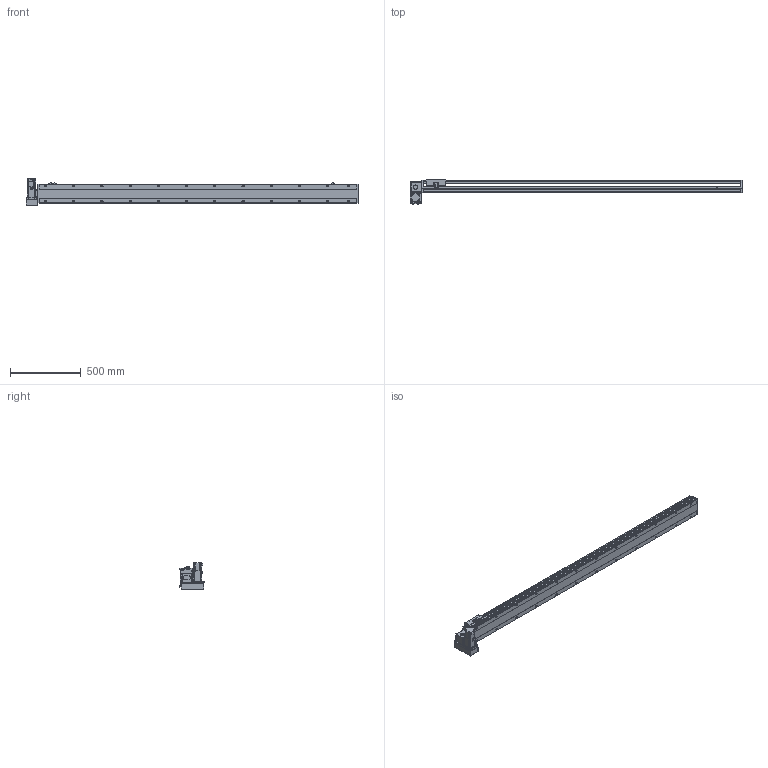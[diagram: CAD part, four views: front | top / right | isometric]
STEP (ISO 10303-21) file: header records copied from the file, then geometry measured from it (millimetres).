
FILE_DESCRIPTION( ( 'STEP AP214' ), '1' );
FILE_NAME( 'x:/temp/worker_6/temp/exporttempdir_5396_106_bxIl2/format_0/PBS140S-P40-S2000-LD-T40-C1-N(0).stp', '2022-06-09T00:28:22', ( 'License CC BY-ND 4.0' ), ( 'CADENAS' ), ' ', 'PARTsolutions', ' ' );
FILE_SCHEMA( ( 'AUTOMOTIVE_DESIGN { 1 0 10303 214 1 1 1 1 }' ) );
Length unit declared in the file: millimetre
Products named in the file (7): PBS140S-P40-S2000-LD-T40-C1-N(0); _PBS140S-S2000()_body; _PBS140ST-LD_motors; _T40-p1; _PBS140S_sliser; _PBS140S_plant; _PBS140S_sensor
Assembly tree (8 placements, depth 2):
  PBS140S-P40-S2000-LD-T40-C1-N(0)
    _PBS140S-S2000()_body
    _PBS140ST-LD_motors
    _T40-p1
    _PBS140S_sliser
    _PBS140S_plant
    _PBS140S_sensor  x3
Bounding box: 2354 x 172.5 x 189.7 mm (x, y, z)
Volume: 11593571.5 mm3; surface area: 1964099.5 mm2
Topology: 8 solids, 8 shells, 1163 faces, 3071 edges, 2009 vertices
Faces by surface type: plane 726, cylinder 377, cone 50, sphere 8, torus 2
Full cylindrical faces by diameter (mm): 3.242 x4, 4 x2, 4.134 x4, 4.4 x8, 4.5 x2, 4.8 x4, 4.917 x32, 5.5 x7, 6 x2, 7 x26, 7.5 x8, 8 x12, 8.5 x4, 10.5 x24, 14 x1, 30 x2, 50 x2
Entity records: 42904 total; most frequent: CARTESIAN_POINT 7078, DIRECTION 5628, ORIENTED_EDGE 5302, EDGE_CURVE 2651, AXIS2_PLACEMENT_3D 1979, VERTEX_POINT 1849, LINE 1670, VECTOR 1670
